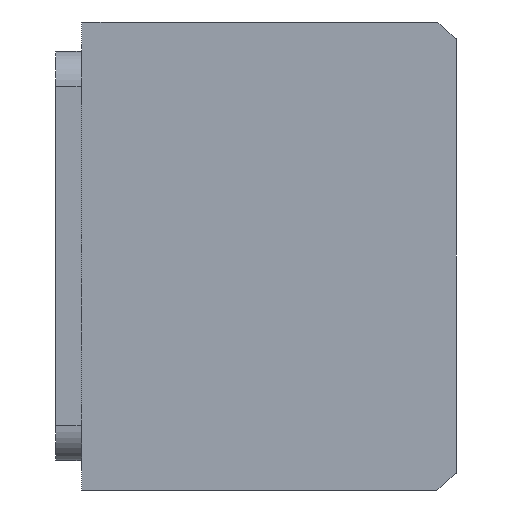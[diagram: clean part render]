
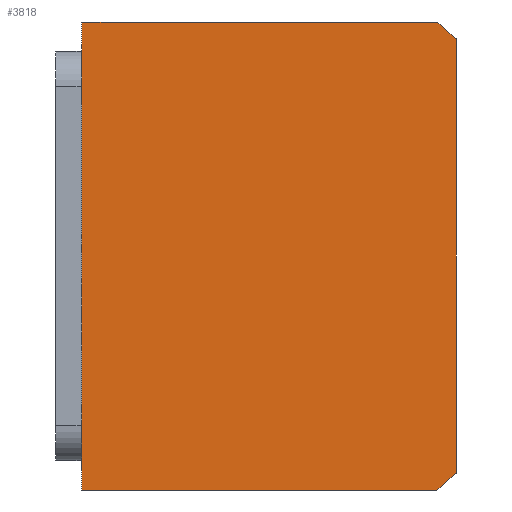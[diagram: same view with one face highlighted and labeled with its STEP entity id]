
A CAD part, front view. The second image highlights one B-rep face of the part: STEP entity #3818.
In plain terms, the highlighted planar face has unit normal (0, -1, 0).
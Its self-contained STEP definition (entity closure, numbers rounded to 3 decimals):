
#3442=PLANE('',#12453);
#3818=ADVANCED_FACE('',(#4299),#3442,.F.);
#4299=FACE_OUTER_BOUND('',#4814,.T.);
#4814=EDGE_LOOP('',(#7691,#7692,#7693,#7694,#7695,#7696));
#5291=LINE('',#19516,#6229);
#5315=LINE('',#19724,#6253);
#5325=LINE('',#19745,#6263);
#5341=LINE('',#19788,#6279);
#6229=VECTOR('',#13009,1.);
#6253=VECTOR('',#13093,1.);
#6263=VECTOR('',#13105,1.);
#6279=VECTOR('',#13139,1.);
#7691=ORIENTED_EDGE('',*,*,#11140,.F.);
#7692=ORIENTED_EDGE('',*,*,#11108,.F.);
#7693=ORIENTED_EDGE('',*,*,#11141,.F.);
#7694=ORIENTED_EDGE('',*,*,#11063,.F.);
#7695=ORIENTED_EDGE('',*,*,#11142,.F.);
#7696=ORIENTED_EDGE('',*,*,#11118,.F.);
#10098=VERTEX_POINT('',#19514);
#10100=VERTEX_POINT('',#19517);
#10143=VERTEX_POINT('',#19723);
#10144=VERTEX_POINT('',#19725);
#10152=VERTEX_POINT('',#19743);
#10154=VERTEX_POINT('',#19746);
#11063=EDGE_CURVE('',#10098,#10100,#5291,.T.);
#11108=EDGE_CURVE('',#10143,#10144,#5315,.T.);
#11118=EDGE_CURVE('',#10152,#10154,#5325,.T.);
#11140=EDGE_CURVE('',#10144,#10152,#12292,.T.);
#11141=EDGE_CURVE('',#10100,#10143,#5341,.T.);
#11142=EDGE_CURVE('',#10154,#10098,#12293,.T.);
#12292=CIRCLE('',#12451,51.);
#12293=CIRCLE('',#12452,51.);
#12451=AXIS2_PLACEMENT_3D('',#19787,#13137,#13138);
#12452=AXIS2_PLACEMENT_3D('',#19789,#13140,#13141);
#12453=AXIS2_PLACEMENT_3D('',#19790,#13142,#13143);
#13009=DIRECTION('',(-1.,0.,0.));
#13093=DIRECTION('',(1.,0.,0.));
#13105=DIRECTION('',(0.,0.,-1.));
#13137=DIRECTION('',(0.,1.,0.));
#13138=DIRECTION('',(0.,0.,-1.));
#13139=DIRECTION('',(0.,0.,1.));
#13140=DIRECTION('',(0.,1.,0.));
#13141=DIRECTION('',(0.,0.,-1.));
#13142=DIRECTION('',(0.,1.,0.));
#13143=DIRECTION('',(0.,0.,1.));
#19514=CARTESIAN_POINT('',(97.579,-76.556,-48.661));
#19516=CARTESIAN_POINT('',(36.941,-76.556,-48.661));
#19517=CARTESIAN_POINT('',(36.941,-76.556,-48.661));
#19723=CARTESIAN_POINT('',(36.941,-76.556,31.339));
#19724=CARTESIAN_POINT('',(36.941,-76.556,31.339));
#19725=CARTESIAN_POINT('',(97.579,-76.556,31.339));
#19743=CARTESIAN_POINT('',(100.941,-76.556,28.434));
#19745=CARTESIAN_POINT('',(100.941,-76.556,31.339));
#19746=CARTESIAN_POINT('',(100.941,-76.556,-45.755));
#19787=CARTESIAN_POINT('',(65.941,-76.556,-8.661));
#19788=CARTESIAN_POINT('',(36.941,-76.556,31.339));
#19789=CARTESIAN_POINT('',(65.941,-76.556,-8.661));
#19790=CARTESIAN_POINT('',(25.434,-76.556,-8.661));
